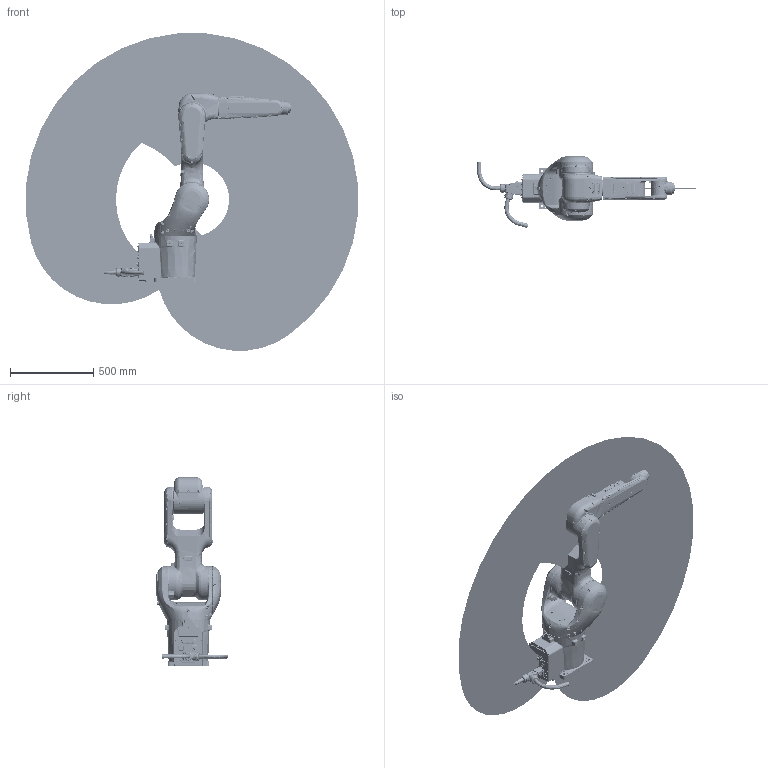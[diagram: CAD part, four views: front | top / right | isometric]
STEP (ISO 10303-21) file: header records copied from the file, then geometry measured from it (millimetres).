
FILE_DESCRIPTION(/* description */ (''),/* implementation_level */ '2;1');
FILE_NAME(/* name */ 'NB12s-1611 简化模型(20220421).stp',/* time_stamp */ '2022-04-21T13:52:35+08:00',/* author */ (''),/* organization */ (''),/* preprocessor_version */ 'ST-DEVELOPER v16',/* originating_system */ 'SIEMENS PLM Software NX 10.0',/* authorisation */ '');
FILE_SCHEMA (('CONFIG_CONTROL_DESIGN'));
Products named in the file (9): NB12s-3DWork-D; NB12-xiaobiqian-Blogo; NB12-dabi-B; NB12-shuchu-A; NB12-shouwan-A; NB12-xiaobihou-A; NB12-yao-A; NB12-base-A; NB12s-1611 简化模型(20220421)
Assembly tree (8 placements, depth 2):
  NB12s-1611 简化模型(20220421)
    NB12-base-A
    NB12-yao-A
    NB12-xiaobihou-A
    NB12-shouwan-A
    NB12-shuchu-A
    NB12-dabi-B
    NB12-xiaobiqian-Blogo
    NB12s-3DWork-D
Bounding box: 1997.36 x 432.32 x 1908.95 mm (x, y, z)
Volume: 41459487.3 mm3; surface area: 4923666.6 mm2
Topology: 37 solids, 102 shells, 10097 faces, 23400 edges, 13750 vertices
Faces by surface type: plane 4377, cylinder 1887, cone 1479, bspline 1198, torus 632, extrusion 445, sphere 73, revolution 6
Full cylindrical faces by diameter (mm): 0.8 x20, 1.1 x20, 2.5 x4, 3.3 x14, 3.464 x10, 3.5 x4, 3.838 x26, 4.1 x4, 4.2 x15, 4.5 x35, 4.826 x2, 5 x9, 5.13 x8, 5.5 x30, 5.795 x2, 6.5 x16, 6.8 x2, 7 x70, 7.76 x3, 7.782 x2, 8.4 x12, 8.5 x3, 8.6 x2, 9 x2, 9.728 x1, 10 x5, 10.1 x1, 10.272 x1, 10.3 x4, 11 x2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
Entity records: 414341 total; most frequent: CARTESIAN_POINT 201586, ORIENTED_EDGE 43863, DIRECTION 41758, EDGE_CURVE 21935, AXIS2_PLACEMENT_3D 16111, VERTEX_POINT 13459, EDGE_LOOP 11650, ADVANCED_FACE 10094
